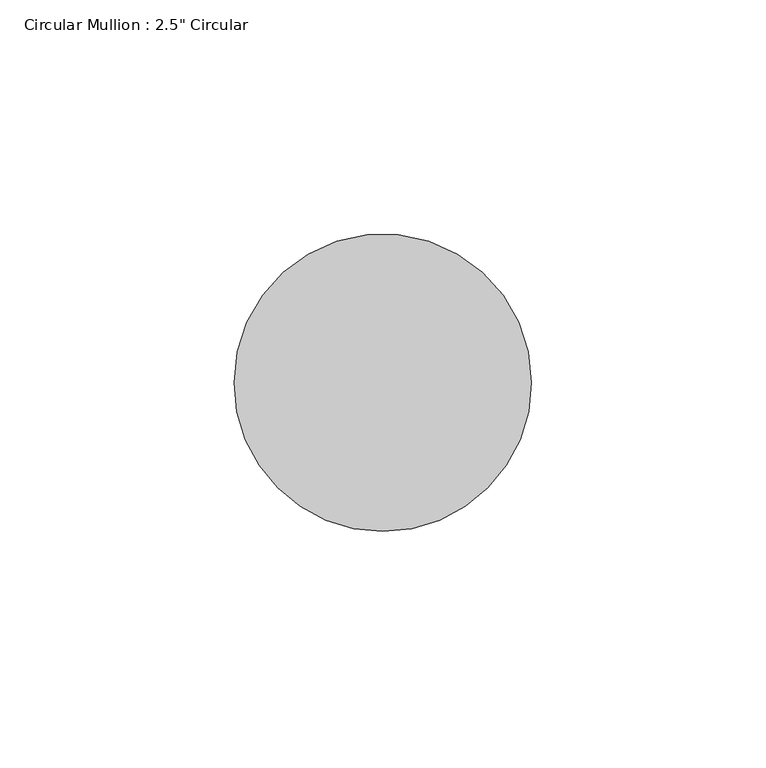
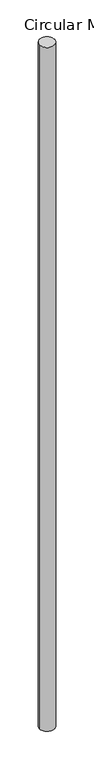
"""IFC4 building model written with IfcOpenShell, lengths in millimetres: member geometry."""

from ifc_helpers import new_model, si_unit, frame, origin, place, context, project, spatial, circle_curve, ellipse_curve, source, transform, mapped, element, save
from ifc_brep_helpers import plane_surface, cylinder_surface, advanced_brep


def member_61e9d94c(model_context):
    return source(origin(), model_context, "Body", "AdvancedBrep", [
        advanced_brep(
        [(0.0, 0.0, -3013.38937), (-63.5, 0.0, -3013.38937), (-63.5, 0.0, -1.7023631), (0.0, 0.0, 0.0)],
        [
            (0, 1, circle_curve(frame((-31.75, 0.0, -3013.38937), z_axis=(0.0, 0.0, -1.0), x_axis=(1.0, 0.0, 0.0)), 31.75)),
            (1, 0, circle_curve(frame((-31.75, 0.0, -3013.38937), z_axis=(0.0, 0.0, -1.0), x_axis=(1.0, 0.0, 0.0)), 31.75)),
            (2, 3, ellipse_curve(frame((-31.75, 0.0, -0.8511816), z_axis=(0.026771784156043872, 0.045253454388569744, -0.9986167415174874), x_axis=(0.5084634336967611, 0.8594767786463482, 0.052579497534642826)), 31.7939793, 31.75)),
            (3, 0),
            (1, 2),
            (3, 2, ellipse_curve(frame((-31.75, 0.0, -0.8511816), z_axis=(0.026771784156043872, 0.045253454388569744, -0.9986167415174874), x_axis=(0.5084634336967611, 0.8594767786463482, 0.052579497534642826)), 31.7939793, 31.75)),
        ],
        [
            plane_surface(frame((0.0, -63.5, -3013.38937), z_axis=(0.0, 0.0, -1.0), x_axis=(-1.0, 0.0, 0.0))),
            cylinder_surface(frame((-31.75, 0.0, 0.0), z_axis=(0.0, 0.0, 1.0), x_axis=(1.0, 0.0, 0.0)), 31.75),
            plane_surface(frame((262.3313943, -155.1943285, 0.0), z_axis=(-0.026771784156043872, -0.045253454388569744, 0.9986167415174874), x_axis=(-0.5084634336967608, -0.8594767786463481, -0.05257949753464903))),
        ],
        [
            (0, [[1, 2]]),
            (1, [[3, 4, -2, 5]]),
            (1, [[6, -5, -1, -4]]),
            (2, [[-3, -6]]),
        ],
    ),
    ])


if __name__ == "__main__":
    model = new_model("IFC4")
    model_context = context("Model", 3, world=origin())
    ifc_project = project(units=[si_unit("LENGTHUNIT", "METRE", prefix="MILLI")], contexts=[model_context])
    site = spatial("IfcSite", under=ifc_project)
    building = spatial("IfcBuilding", under=site)
    placement = place(None, origin())
    member_shape = member_61e9d94c(model_context)
    element("IfcMember", 1, ObjectType="Circular Mullion : 2.5\" Circular", at=placement, inside=building, context=model_context, shape_type="MappedRepresentation", body=[
        mapped(member_shape, transform((0.0, 0.0, 0.0), x_axis=(1.0, 0.0, 0.0), y_axis=(0.0, 1.0, 0.0), z_axis=(0.0, 0.0, 1.0))),
    ])
    save(model, "model.ifc")
